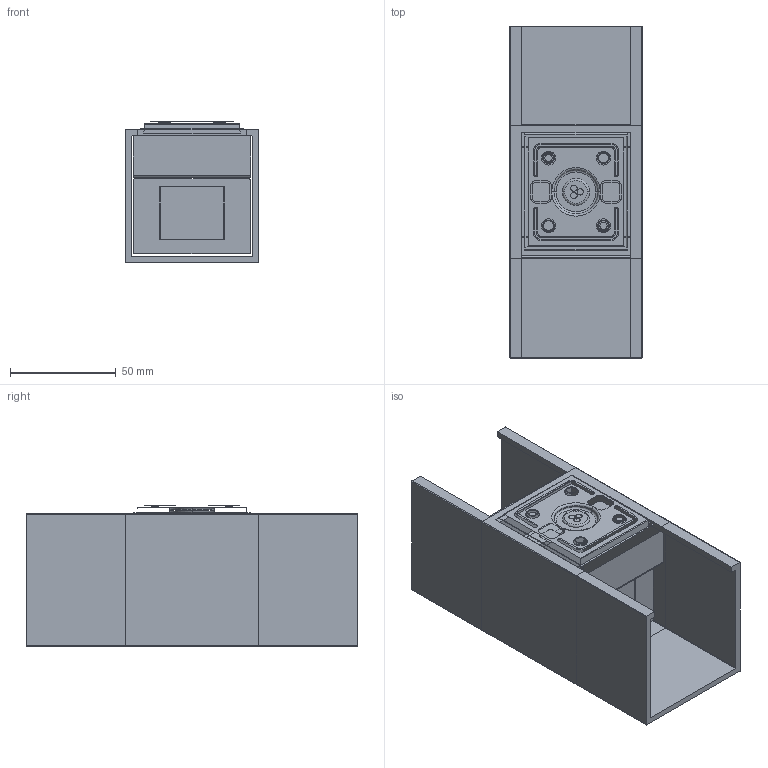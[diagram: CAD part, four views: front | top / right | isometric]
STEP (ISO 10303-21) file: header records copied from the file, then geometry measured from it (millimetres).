
FILE_DESCRIPTION((''),'2;1');
FILE_NAME('60_SW0003','2025-07-22T16:52:31',('Piccioli'),(''),'CREO PARAMETRIC BY PTC INC, 2025010','CREO PARAMETRIC BY PTC INC, 2025010','');
FILE_SCHEMA(('CONFIG_CONTROL_DESIGN'));
Length unit declared in the file: millimetre
Products named in the file (1): 60_SW0003
Bounding box: 63 x 157 x 66.8 mm (x, y, z)
Surface area: 96424.5 mm2 (no closed solid volume)
Topology: 0 solids, 28 shells, 72 faces, 373 edges, 322 vertices
Faces by surface type: plane 44, cylinder 18, torus 10
Entity records: 4021 total; most frequent: CARTESIAN_POINT 1011, DIRECTION 663, ORIENTED_EDGE 458, EDGE_CURVE 373, VERTEX_POINT 322, AXIS2_PLACEMENT_3D 238, VECTOR 187, LINE 187
